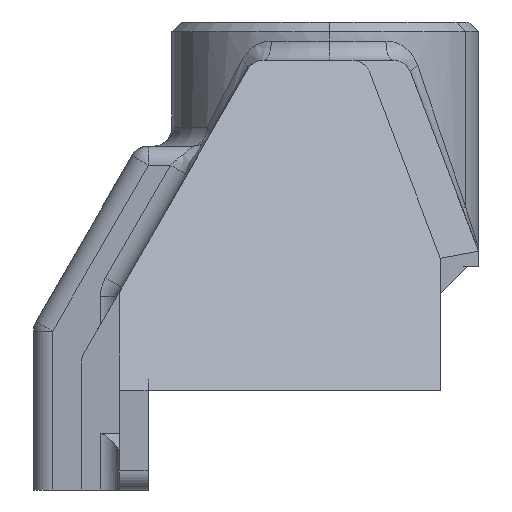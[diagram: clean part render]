
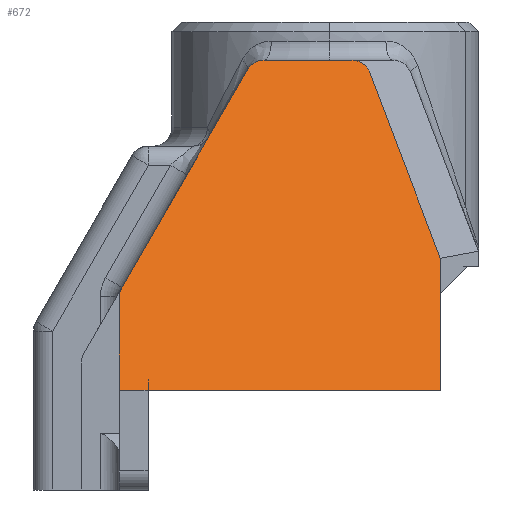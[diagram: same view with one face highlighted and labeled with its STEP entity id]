
A CAD part, left-side view. The second image highlights one B-rep face of the part: STEP entity #672.
In plain terms, the highlighted planar face has unit normal (-0.866, 0, 0.5).
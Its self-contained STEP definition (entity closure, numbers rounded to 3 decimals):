
#40 = CARTESIAN_POINT ( 'NONE',  ( -28., -19.378, -2.767 ) ) ;
#77 = EDGE_CURVE ( 'NONE', #3430, #5279, #1813, .T. ) ;
#138 = ORIENTED_EDGE ( 'NONE', *, *, #5399, .T. ) ;
#398 = VERTEX_POINT ( 'NONE', #689 ) ;
#418 = CARTESIAN_POINT ( 'NONE',  ( -28., -17.3, -2.767 ) ) ;
#521 = DIRECTION ( 'NONE',  ( -0.5, 0., -0.866 ) ) ;
#589 = VECTOR ( 'NONE', #6602, 1000. ) ;
#672 = ADVANCED_FACE ( 'NONE', ( #3669 ), #1041, .F. ) ;
#689 = CARTESIAN_POINT ( 'NONE',  ( -28., -15.3, -2.767 ) ) ;
#828 = EDGE_LOOP ( 'NONE', ( #1122, #6775, #138, #5925, #5929, #2535, #4276, #1167, #2648, #5627 ) ) ;
#871 = DIRECTION ( 'NONE',  ( 0.447, -0.447, 0.775 ) ) ;
#938 = DIRECTION ( 'NONE',  ( 0.866, 0., -0.5 ) ) ;
#1041 = PLANE ( 'NONE',  #2030 ) ;
#1122 = ORIENTED_EDGE ( 'NONE', *, *, #77, .F. ) ;
#1167 = ORIENTED_EDGE ( 'NONE', *, *, #3481, .T. ) ;
#1253 = CARTESIAN_POINT ( 'NONE',  ( -18.031, -6.077, 14.5 ) ) ;
#1365 = VECTOR ( 'NONE', #5453, 1000. ) ;
#1564 = CARTESIAN_POINT ( 'NONE',  ( -25.083, 1.5, 2.284 ) ) ;
#1641 =( BOUNDED_CURVE ( )  B_SPLINE_CURVE ( 3, ( #2396, #6152, #6478, #6616 ),
 .UNSPECIFIED., .F., .T. ) 
 B_SPLINE_CURVE_WITH_KNOTS ( ( 4, 4 ),
 ( 3.142, 4.189 ),
 .UNSPECIFIED. ) 
 CURVE ( )  GEOMETRIC_REPRESENTATION_ITEM ( )  RATIONAL_B_SPLINE_CURVE ( ( 1., 0.911, 0.911, 1. ) ) 
 REPRESENTATION_ITEM ( '' )  );
#1653 = CARTESIAN_POINT ( 'NONE',  ( -18.031, -11.1, 14.5 ) ) ;
#1813 = LINE ( 'NONE', #6608, #2103 ) ;
#1845 = VECTOR ( 'NONE', #6497, 1000. ) ;
#1863 = LINE ( 'NONE', #2267, #3272 ) ;
#2030 = AXIS2_PLACEMENT_3D ( 'NONE', #418, #938, #521 ) ;
#2103 = VECTOR ( 'NONE', #871, 1000. ) ;
#2139 = VERTEX_POINT ( 'NONE', #5848 ) ;
#2221 = CARTESIAN_POINT ( 'NONE',  ( -24.016, -15.3, 4.133 ) ) ;
#2267 = CARTESIAN_POINT ( 'NONE',  ( -18.031, -5.5, 14.5 ) ) ;
#2383 = LINE ( 'NONE', #4488, #589 ) ;
#2396 = CARTESIAN_POINT ( 'NONE',  ( -18.031, -6.077, 14.5 ) ) ;
#2535 = ORIENTED_EDGE ( 'NONE', *, *, #5214, .F. ) ;
#2648 = ORIENTED_EDGE ( 'NONE', *, *, #3575, .F. ) ;
#2655 = EDGE_CURVE ( 'NONE', #6088, #5279, #1641, .T. ) ;
#2661 = CARTESIAN_POINT ( 'NONE',  ( -24.897, 1.366, 2.608 ) ) ;
#2773 = EDGE_CURVE ( 'NONE', #5604, #5890, #4232, .T. ) ;
#3017 = CARTESIAN_POINT ( 'NONE',  ( -25.185, 1.5, 2.108 ) ) ;
#3127 = EDGE_CURVE ( 'NONE', #3430, #4963, #3256, .T. ) ;
#3227 = CARTESIAN_POINT ( 'NONE',  ( -18.031, -10.671, 14.5 ) ) ;
#3256 =( BOUNDED_CURVE ( )  B_SPLINE_CURVE ( 3, ( #4186, #6285, #1564, #3668 ),
 .UNSPECIFIED., .F., .T. ) 
 B_SPLINE_CURVE_WITH_KNOTS ( ( 4, 4 ),
 ( 4.189, 4.712 ),
 .UNSPECIFIED. ) 
 CURVE ( )  GEOMETRIC_REPRESENTATION_ITEM ( )  RATIONAL_B_SPLINE_CURVE ( ( 1., 0.977, 0.977, 1. ) ) 
 REPRESENTATION_ITEM ( '' )  );
#3268 =( BOUNDED_CURVE ( )  B_SPLINE_CURVE ( 3, ( #4280, #6378, #1653, #3227 ),
 .UNSPECIFIED., .F., .T. ) 
 B_SPLINE_CURVE_WITH_KNOTS ( ( 4, 4 ),
 ( 5.076, 6.283 ),
 .UNSPECIFIED. ) 
 CURVE ( )  GEOMETRIC_REPRESENTATION_ITEM ( )  RATIONAL_B_SPLINE_CURVE ( ( 1., 0.882, 0.882, 1. ) ) 
 REPRESENTATION_ITEM ( '' )  );
#3272 = VECTOR ( 'NONE', #3961, 1000. ) ;
#3430 = VERTEX_POINT ( 'NONE', #2661 ) ;
#3481 = EDGE_CURVE ( 'NONE', #2139, #5999, #3268, .T. ) ;
#3575 = EDGE_CURVE ( 'NONE', #6088, #5999, #1863, .T. ) ;
#3625 = LINE ( 'NONE', #6173, #4453 ) ;
#3668 = CARTESIAN_POINT ( 'NONE',  ( -25.185, 1.5, 2.108 ) ) ;
#3669 = FACE_OUTER_BOUND ( 'NONE', #828, .T. ) ;
#3710 = CARTESIAN_POINT ( 'NONE',  ( -28., -17.3, -2.767 ) ) ;
#3735 = DIRECTION ( 'NONE',  ( 0., 1., 0. ) ) ;
#3862 = EDGE_CURVE ( 'NONE', #398, #5604, #4261, .T. ) ;
#3933 = CARTESIAN_POINT ( 'NONE',  ( -28., 1.5, -2.767 ) ) ;
#3961 = DIRECTION ( 'NONE',  ( 0., -1., 0. ) ) ;
#4186 = CARTESIAN_POINT ( 'NONE',  ( -24.897, 1.366, 2.608 ) ) ;
#4232 = LINE ( 'NONE', #3710, #1845 ) ;
#4261 = LINE ( 'NONE', #40, #4844 ) ;
#4276 = ORIENTED_EDGE ( 'NONE', *, *, #5979, .F. ) ;
#4280 = CARTESIAN_POINT ( 'NONE',  ( -18.403, -11.605, 13.855 ) ) ;
#4387 = CARTESIAN_POINT ( 'NONE',  ( -18.319, -5.211, 14. ) ) ;
#4453 = VECTOR ( 'NONE', #6406, 1000. ) ;
#4488 = CARTESIAN_POINT ( 'NONE',  ( -28., 1.5, -2.767 ) ) ;
#4844 = VECTOR ( 'NONE', #3735, 1000. ) ;
#4855 = VERTEX_POINT ( 'NONE', #2221 ) ;
#4963 = VERTEX_POINT ( 'NONE', #3017 ) ;
#5151 = CARTESIAN_POINT ( 'NONE',  ( -28., 0., -2.767 ) ) ;
#5214 = EDGE_CURVE ( 'NONE', #4855, #398, #5385, .T. ) ;
#5279 = VERTEX_POINT ( 'NONE', #4387 ) ;
#5385 = LINE ( 'NONE', #6535, #1365 ) ;
#5399 = EDGE_CURVE ( 'NONE', #4963, #5890, #2383, .T. ) ;
#5453 = DIRECTION ( 'NONE',  ( -0.5, 0., -0.866 ) ) ;
#5604 = VERTEX_POINT ( 'NONE', #5151 ) ;
#5627 = ORIENTED_EDGE ( 'NONE', *, *, #2655, .T. ) ;
#5749 = CARTESIAN_POINT ( 'NONE',  ( -18.031, -10.671, 14.5 ) ) ;
#5848 = CARTESIAN_POINT ( 'NONE',  ( -18.403, -11.605, 13.855 ) ) ;
#5890 = VERTEX_POINT ( 'NONE', #3933 ) ;
#5925 = ORIENTED_EDGE ( 'NONE', *, *, #2773, .F. ) ;
#5929 = ORIENTED_EDGE ( 'NONE', *, *, #3862, .F. ) ;
#5979 = EDGE_CURVE ( 'NONE', #2139, #4855, #3625, .T. ) ;
#5999 = VERTEX_POINT ( 'NONE', #5749 ) ;
#6088 = VERTEX_POINT ( 'NONE', #1253 ) ;
#6152 = CARTESIAN_POINT ( 'NONE',  ( -18.031, -5.711, 14.5 ) ) ;
#6173 = CARTESIAN_POINT ( 'NONE',  ( -20.629, -13.071, 10. ) ) ;
#6285 = CARTESIAN_POINT ( 'NONE',  ( -24.985, 1.454, 2.455 ) ) ;
#6378 = CARTESIAN_POINT ( 'NONE',  ( -18.171, -11.453, 14.256 ) ) ;
#6406 = DIRECTION ( 'NONE',  ( -0.475, -0.313, -0.823 ) ) ;
#6478 = CARTESIAN_POINT ( 'NONE',  ( -18.136, -5.394, 14.317 ) ) ;
#6497 = DIRECTION ( 'NONE',  ( 0., 1., 0. ) ) ;
#6535 = CARTESIAN_POINT ( 'NONE',  ( -22.052, -15.3, 7.535 ) ) ;
#6602 = DIRECTION ( 'NONE',  ( -0.5, 0., -0.866 ) ) ;
#6608 = CARTESIAN_POINT ( 'NONE',  ( -14.425, -9.106, 20.746 ) ) ;
#6616 = CARTESIAN_POINT ( 'NONE',  ( -18.319, -5.211, 14. ) ) ;
#6775 = ORIENTED_EDGE ( 'NONE', *, *, #3127, .T. ) ;
